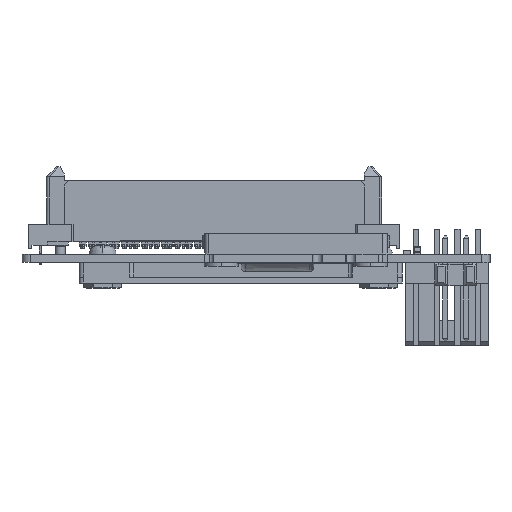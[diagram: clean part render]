
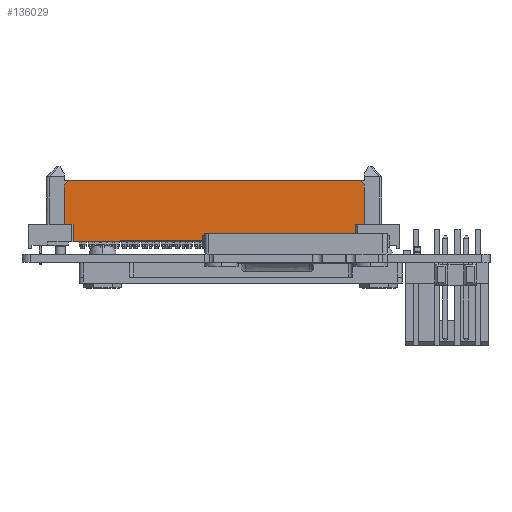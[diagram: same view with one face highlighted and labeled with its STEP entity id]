
A CAD part, front view. The second image highlights one B-rep face of the part: STEP entity #136029.
In plain terms, the highlighted planar face has unit normal (0, -1, 0) as drawn and (0, 1, 0) by its records, which use the part's own axes.
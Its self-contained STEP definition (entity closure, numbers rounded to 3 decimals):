
#109726 = VERTEX_POINT('',#109727);
#109727 = CARTESIAN_POINT('',(17.488,9.535,1.525));
#109733 = EDGE_CURVE('',#109734,#109726,#109736,.T.);
#109734 = VERTEX_POINT('',#109735);
#109735 = CARTESIAN_POINT('',(16.418,9.535,1.525));
#109736 = LINE('',#109737,#109738);
#109737 = CARTESIAN_POINT('',(16.288,9.535,1.525));
#109738 = VECTOR('',#109739,1.);
#109739 = DIRECTION('',(1.,0.,0.));
#120071 = VERTEX_POINT('',#120072);
#120072 = CARTESIAN_POINT('',(-18.702,9.535,1.525));
#120115 = VERTEX_POINT('',#120116);
#120116 = CARTESIAN_POINT('',(-17.632,9.535,1.525));
#120122 = EDGE_CURVE('',#120115,#120071,#120123,.T.);
#120123 = LINE('',#120124,#120125);
#120124 = CARTESIAN_POINT('',(-21.482,9.535,1.525));
#120125 = VECTOR('',#120126,1.);
#120126 = DIRECTION('',(-1.,0.,0.));
#133576 = EDGE_CURVE('',#133577,#133579,#133581,.T.);
#133577 = VERTEX_POINT('',#133578);
#133578 = CARTESIAN_POINT('',(16.988,9.535,
    -3.725));
#133579 = VERTEX_POINT('',#133580);
#133580 = CARTESIAN_POINT('',(17.488,9.535,-3.225));
#133581 = LINE('',#133582,#133583);
#133582 = CARTESIAN_POINT('',(17.488,9.535,-3.225));
#133583 = VECTOR('',#133584,1.);
#133584 = DIRECTION('',(0.707,0.,0.707));
#134984 = VERTEX_POINT('',#134985);
#134985 = CARTESIAN_POINT('',(-18.702,9.535,
    -3.225));
#134991 = EDGE_CURVE('',#134992,#134984,#134994,.T.);
#134992 = VERTEX_POINT('',#134993);
#134993 = CARTESIAN_POINT('',(-18.202,9.535,
    -3.725));
#134994 = LINE('',#134995,#134996);
#134995 = CARTESIAN_POINT('',(-18.702,9.535,-3.225));
#134996 = VECTOR('',#134997,1.);
#134997 = DIRECTION('',(-0.707,0.,0.707));
#135476 = VERTEX_POINT('',#135477);
#135477 = CARTESIAN_POINT('',(16.418,9.535,3.625));
#135483 = EDGE_CURVE('',#135484,#135476,#135486,.T.);
#135484 = VERTEX_POINT('',#135485);
#135485 = CARTESIAN_POINT('',(-17.632,9.535,3.625));
#135486 = LINE('',#135487,#135488);
#135487 = CARTESIAN_POINT('',(-17.582,9.535,3.625));
#135488 = VECTOR('',#135489,1.);
#135489 = DIRECTION('',(1.,0.,0.));
#135521 = EDGE_CURVE('',#135476,#109734,#135522,.T.);
#135522 = LINE('',#135523,#135524);
#135523 = CARTESIAN_POINT('',(16.418,9.535,3.625));
#135524 = VECTOR('',#135525,1.);
#135525 = DIRECTION('',(0.,0.,-1.));
#135535 = EDGE_CURVE('',#109726,#133579,#135536,.T.);
#135536 = LINE('',#135537,#135538);
#135537 = CARTESIAN_POINT('',(17.488,9.535,3.625));
#135538 = VECTOR('',#135539,1.);
#135539 = DIRECTION('',(0.,0.,-1.));
#135635 = EDGE_CURVE('',#133577,#134992,#135636,.T.);
#135636 = LINE('',#135637,#135638);
#135637 = CARTESIAN_POINT('',(-17.582,9.535,
    -3.725));
#135638 = VECTOR('',#135639,1.);
#135639 = DIRECTION('',(-1.,0.,0.));
#135999 = EDGE_CURVE('',#134984,#120071,#136000,.T.);
#136000 = LINE('',#136001,#136002);
#136001 = CARTESIAN_POINT('',(-18.702,9.535,3.625));
#136002 = VECTOR('',#136003,1.);
#136003 = DIRECTION('',(0.,0.,1.));
#136019 = EDGE_CURVE('',#120115,#135484,#136020,.T.);
#136020 = LINE('',#136021,#136022);
#136021 = CARTESIAN_POINT('',(-17.632,9.535,3.625));
#136022 = VECTOR('',#136023,1.);
#136023 = DIRECTION('',(0.,0.,1.));
#136029 = ADVANCED_FACE('',(#136030),#136042,.T.);
#136030 = FACE_BOUND('',#136031,.T.);
#136031 = EDGE_LOOP('',(#136032,#136033,#136034,#136035,#136036,#136037,
    #136038,#136039,#136040,#136041));
#136032 = ORIENTED_EDGE('',*,*,#120122,.F.);
#136033 = ORIENTED_EDGE('',*,*,#136019,.T.);
#136034 = ORIENTED_EDGE('',*,*,#135483,.T.);
#136035 = ORIENTED_EDGE('',*,*,#135521,.T.);
#136036 = ORIENTED_EDGE('',*,*,#109733,.T.);
#136037 = ORIENTED_EDGE('',*,*,#135535,.T.);
#136038 = ORIENTED_EDGE('',*,*,#133576,.F.);
#136039 = ORIENTED_EDGE('',*,*,#135635,.T.);
#136040 = ORIENTED_EDGE('',*,*,#134991,.T.);
#136041 = ORIENTED_EDGE('',*,*,#135999,.T.);
#136042 = PLANE('',#136043);
#136043 = AXIS2_PLACEMENT_3D('',#136044,#136045,#136046);
#136044 = CARTESIAN_POINT('',(-17.582,9.535,3.625));
#136045 = DIRECTION('',(0.,1.,0.));
#136046 = DIRECTION('',(0.,0.,1.));
